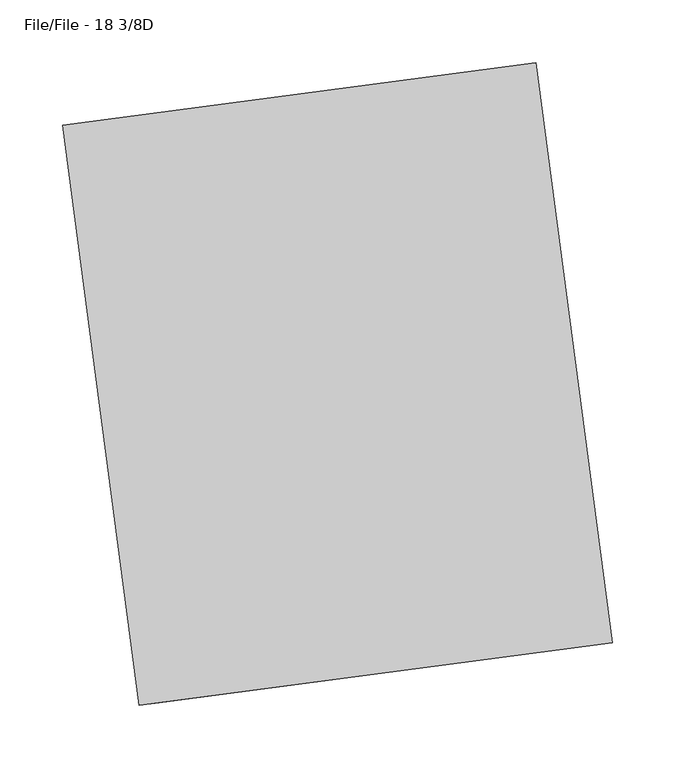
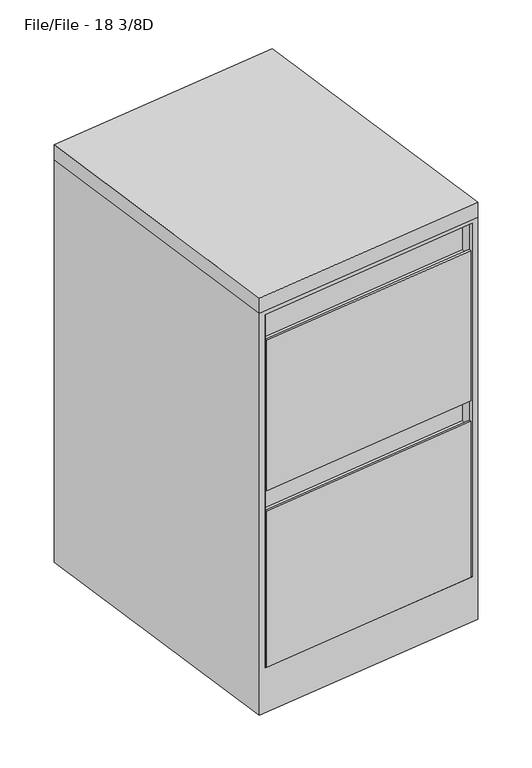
"""IFC4 building model written with IfcOpenShell, lengths in millimetres: furniture geometry, Steelcase - Universal Storage - Mobile Pedestal - Flush Steel : File/File - 18 3/8D."""

from ifc_helpers import new_model, si_unit, point, frame, frame_2d, origin, place, context, project, spatial, polyline, circle_curve, trimmed, segment, composite_curve, outline, extrude, faceted_brep, source, transform, mapped, element, save


def file_file_18_3_8d_4b0746ef(model_context):
    return source(origin(), model_context, "Body", "SolidModel", [
        extrude(outline(polyline([(377.7311592, 49.8013183), (0.0, 0.0), (-61.0232154, 462.8465805), (316.7079438, 512.6478988), (377.7311592, 49.8013183)])), frame((0.0, 0.0, 685.8), z_axis=(0.0, 0.0, 1.0), x_axis=(1.0, 0.0, 0.0)), (0.0, 0.0, 1.0), 25.4),
        extrude(outline(composite_curve([segment(trimmed(circle_curve(frame_2d((0.0, -31.75)), 31.75), [point((0.0, -63.5))], [point((0.0, 0.0))], False, "CARTESIAN"), True, "CONTINUOUS"), segment(trimmed(circle_curve(frame_2d((0.0, -31.75)), 31.75), [point((0.0, 0.0))], [point((0.0, -63.5))], False, "CARTESIAN"), True, "CONTINUOUS")], self_intersect=False)), frame((269.7691174, 487.3712047, 31.75), z_axis=(0.9914203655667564, 0.13071212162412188, 0.0), x_axis=(0.0, 0.0, -1.0)), (0.0, 0.0, 1.0), 38.1),
        extrude(outline(composite_curve([segment(trimmed(circle_curve(frame_2d((0.0, -31.75)), 31.75), [point((0.0, -63.5))], [point((0.0, 0.0))], False, "CARTESIAN"), True, "CONTINUOUS"), segment(trimmed(circle_curve(frame_2d((0.0, -31.75)), 31.75), [point((0.0, 0.0))], [point((0.0, -63.5))], False, "CARTESIAN"), True, "CONTINUOUS")], self_intersect=False)), frame((-46.8854607, 445.4048859, 31.75), z_axis=(0.9914203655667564, 0.13071212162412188, 0.0), x_axis=(0.0, 0.0, -1.0)), (0.0, 0.0, 1.0), 38.1),
        extrude(outline(composite_curve([segment(trimmed(circle_curve(frame_2d((0.0, -31.75)), 31.75), [point((0.0, -63.5))], [point((0.0, 0.0))], False, "CARTESIAN"), True, "CONTINUOUS"), segment(trimmed(circle_curve(frame_2d((0.0, -31.75)), 31.75), [point((0.0, 0.0))], [point((0.0, -63.5))], False, "CARTESIAN"), True, "CONTINUOUS")], self_intersect=False)), frame((317.5119829, 125.2529213, 31.75), z_axis=(0.9914203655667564, 0.13071212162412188, 0.0), x_axis=(0.0, 0.0, -1.0)), (0.0, 0.0, 1.0), 38.1),
        extrude(outline(composite_curve([segment(trimmed(circle_curve(frame_2d((0.0, -31.75)), 31.75), [point((0.0, -63.5))], [point((0.0, 0.0))], False, "CARTESIAN"), True, "CONTINUOUS"), segment(trimmed(circle_curve(frame_2d((0.0, -31.75)), 31.75), [point((0.0, 0.0))], [point((0.0, -63.5))], False, "CARTESIAN"), True, "CONTINUOUS")], self_intersect=False)), frame((0.8565804, 83.5040316, 31.75), z_axis=(0.9914203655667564, 0.13071212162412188, 0.0), x_axis=(0.0, 0.0, -1.0)), (0.0, 0.0, 1.0), 38.1),
        extrude(outline(polyline([(364.8325558, 51.3029701), (12.2838426, 4.8217882), (10.2087876, 20.560587), (362.7575008, 67.0417688), (364.8325558, 51.3029701)])), frame((0.0, 0.0, 82.5919123), z_axis=(0.0, 0.0, 1.0), x_axis=(1.0, 0.0, 0.0)), (0.0, 0.0, 1.0), 254.000003),
        extrude(outline(polyline([(365.2474805, 48.1558644), (12.6987674, 1.6746826), (12.2838426, 4.8217882), (364.8325558, 51.3029701), (365.2474805, 48.1558644)])), frame((0.0, 0.0, 82.5919123), z_axis=(0.0, 0.0, 1.0), x_axis=(1.0, 0.0, 0.0)), (0.0, 0.0, 1.0), 263.524997),
        extrude(outline(polyline([(364.8325558, 51.3029701), (12.2838426, 4.8217882), (10.2087876, 20.560587), (362.7575008, 67.0417688), (364.8325558, 51.3029701)])), frame((0.0, 0.0, 380.9149214), z_axis=(0.0, 0.0, 1.0), x_axis=(1.0, 0.0, 0.0)), (0.0, 0.0, 1.0), 244.6019879),
        extrude(outline(polyline([(365.2475369, 48.1554365), (12.6988238, 1.6742547), (12.2838426, 4.8217882), (364.8325558, 51.3029701), (365.2475369, 48.1554365)])), frame((0.0, 0.0, 380.9149214), z_axis=(0.0, 0.0, 1.0), x_axis=(1.0, 0.0, 0.0)), (0.0, 0.0, 1.0), 254.0),
        faceted_brep([(316.7079438, 512.6478988, 685.8), (377.7311592, 49.8013183, 685.8), (377.7311592, 49.8013183, 6.35), (316.7079438, 512.6478988, 6.35), (-61.0232154, 462.8465805, 685.8), (-61.0232154, 462.8465805, 6.35), (0.0, 0.0, 6.35), (0.0, 0.0, 685.8), (368.3957391, 48.5705058, 679.45), (368.3957391, 48.5705058, 82.5919123), (9.5512903, 1.2592735, 82.5919123), (9.5512903, 1.2592735, 679.45), (12.2838426, 4.8217882, 679.45), (10.2087876, 20.560587, 679.45), (362.7567941, 67.0416757, 679.45), (364.8324685, 51.3036321, 679.45), (10.2087876, 20.560587, 82.5919123), (362.7567941, 67.0416757, 82.5919123), (12.2838426, 4.8217882, 82.5919123), (364.8324685, 51.3036321, 82.5919123)], [[[0, 1, 2, 3]], [[4, 5, 6, 7]], [[1, 0, 4, 7]], [[2, 1, 7, 6], [8, 9, 10, 11]], [[8, 11, 12, 13, 14, 15]], [[14, 13, 16, 17]], [[17, 16, 18, 10, 9, 19]], [[3, 2, 6, 5]], [[0, 3, 5, 4]], [[11, 10, 18, 12]], [[12, 18, 16, 13]], [[19, 15, 14, 17]], [[15, 19, 9, 8]]]),
    ])


if __name__ == "__main__":
    model = new_model("IFC4")
    model_context = context("Model", 3, world=origin())
    ifc_project = project(units=[si_unit("LENGTHUNIT", "METRE", prefix="MILLI")], contexts=[model_context])
    site = spatial("IfcSite", under=ifc_project)
    building = spatial("IfcBuilding", under=site)
    placement = place(None, origin())
    file_file_18_3_8d_shape = file_file_18_3_8d_4b0746ef(model_context)
    element("IfcFurniture", 1, ObjectType="Steelcase - Universal Storage - Mobile Pedestal - Flush Steel : File/File - 18 3/8D", at=placement, inside=building, context=model_context, shape_type="MappedRepresentation", body=[
        mapped(file_file_18_3_8d_shape, transform((0.0, 0.0, 0.0), x_axis=(1.0, 0.0, 0.0), y_axis=(0.0, 1.0, 0.0), z_axis=(0.0, 0.0, 1.0))),
    ])
    save(model, "model.ifc")
